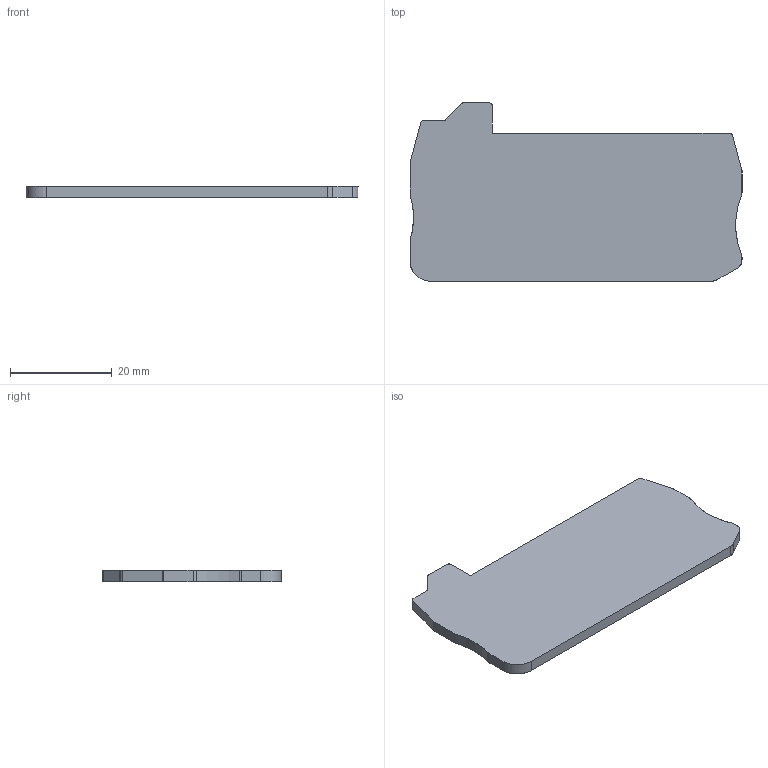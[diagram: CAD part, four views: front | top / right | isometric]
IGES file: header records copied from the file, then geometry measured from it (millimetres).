
Global section: file name: 3033045_d_stu25_twin_select.igs; native system: OneSpace Designer 3D IGES; preprocessor: 12.01C  26-Mar-2004; date: 20041019.072600; units: millimetre
Bounding box: 65.25 x 35.05 x 2.2 mm (x, y, z)
Surface area: 4264.2 mm2 (no closed solid volume)
Topology: 0 solids, 0 shells, 31 faces, 236 edges, 236 vertices
Faces by surface type: bspline 31
